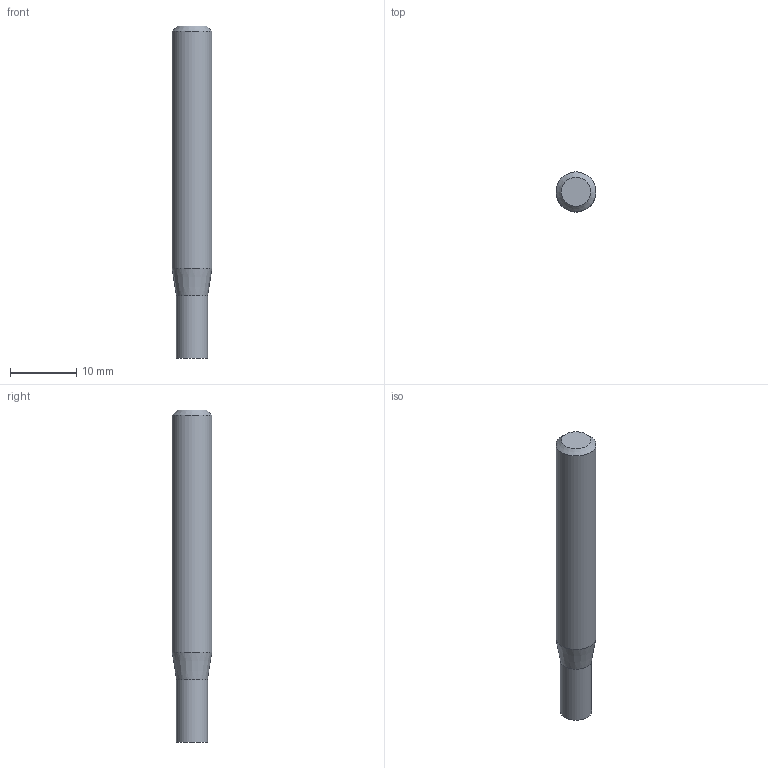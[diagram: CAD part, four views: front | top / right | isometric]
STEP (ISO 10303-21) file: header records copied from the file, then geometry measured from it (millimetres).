
FILE_DESCRIPTION((''),'2;1');
FILE_NAME('C:\Users\nsx150\AppData\Local\Temp\Mastercam 2021\98T1Q6BTT1\TEMP.step','2021-10-21T14:48:42',(''),(''),'STEP Write','Mastercam 2021 ... CNC Software, Inc.','');
FILE_SCHEMA(('AUTOMOTIVE_DESIGN'));
Length unit declared in the file: millimetre
Products named in the file (1): None
Bounding box: 6 x 6 x 50 mm (x, y, z)
Volume: 1282.2 mm3; surface area: 967.2 mm2
Topology: 2 solids, 2 shells, 8 faces, 10 edges, 6 vertices
Faces by surface type: plane 4, cylinder 2, cone 2
Full cylindrical faces by diameter (mm): 4.7 x1, 6 x1
Entity records: 190 total; most frequent: DIRECTION 32, CARTESIAN_POINT 22, AXIS2_PLACEMENT_3D 16, ORIENTED_EDGE 12, EDGE_LOOP 12, STYLED_ITEM 11, ADVANCED_FACE 8, VERTEX_POINT 6
